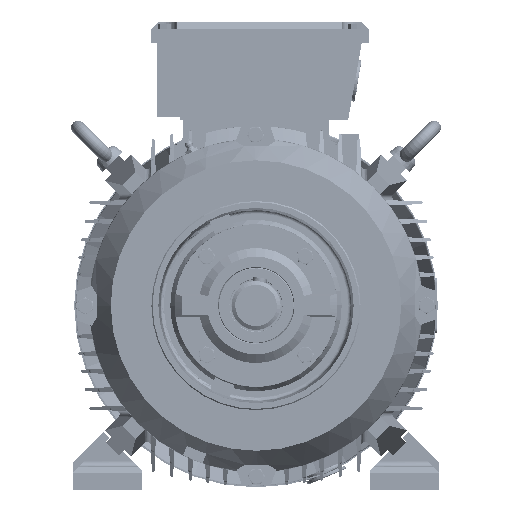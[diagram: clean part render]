
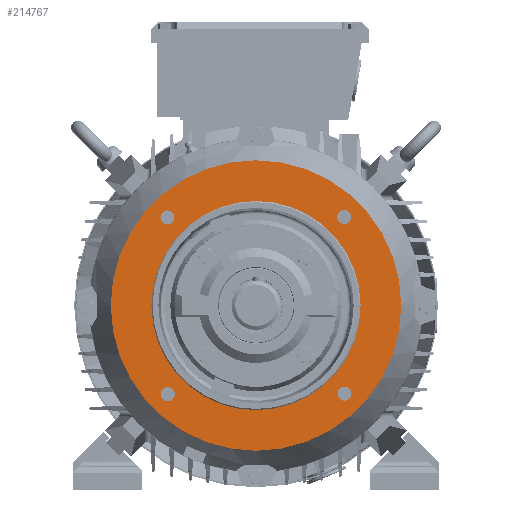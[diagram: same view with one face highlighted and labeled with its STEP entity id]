
A CAD part, left-side view. The second image highlights one B-rep face of the part: STEP entity #214767.
In plain terms, the highlighted planar face has unit normal (-1, 0, 0).
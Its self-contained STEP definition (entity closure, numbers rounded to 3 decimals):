
#2064 = VERTEX_POINT ( 'NONE', #93377 ) ;
#3423 = CARTESIAN_POINT ( 'NONE',  ( -152.343, 99.06, 73.481 ) ) ;
#4718 = ORIENTED_EDGE ( 'NONE', *, *, #263707, .F. ) ;
#6199 = AXIS2_PLACEMENT_3D ( 'NONE', #11031, #56713, #55386 ) ;
#8606 = CIRCLE ( 'NONE', #85944, 6. ) ;
#8969 = ORIENTED_EDGE ( 'NONE', *, *, #254069, .F. ) ;
#10463 = ORIENTED_EDGE ( 'NONE', *, *, #96361, .F. ) ;
#11031 = CARTESIAN_POINT ( 'NONE',  ( -152.343, 22.864, -2.35 ) ) ;
#11828 = CARTESIAN_POINT ( 'NONE',  ( -152.343, 22.864, -2.35 ) ) ;
#12714 = DIRECTION ( 'NONE',  ( -1., 0., 0. ) ) ;
#12979 = AXIS2_PLACEMENT_3D ( 'NONE', #3423, #143346, #242913 ) ;
#13230 = EDGE_LOOP ( 'NONE', ( #163538, #101541 ) ) ;
#14746 = ORIENTED_EDGE ( 'NONE', *, *, #173830, .F. ) ;
#15654 = FACE_BOUND ( 'NONE', #183196, .T. ) ;
#16995 = PLANE ( 'NONE',  #17402 ) ;
#17402 = AXIS2_PLACEMENT_3D ( 'NONE', #35822, #221357, #179676 ) ;
#20962 = CARTESIAN_POINT ( 'NONE',  ( -152.343, 98.694, -78.547 ) ) ;
#22650 = CARTESIAN_POINT ( 'NONE',  ( -152.343, -67.136, -2.133 ) ) ;
#23659 = CIRCLE ( 'NONE', #186772, 6. ) ;
#24302 = CIRCLE ( 'NONE', #170365, 125. ) ;
#28035 = ORIENTED_EDGE ( 'NONE', *, *, #65305, .F. ) ;
#30186 = DIRECTION ( 'NONE',  ( 0., 1., -0.002 ) ) ;
#35822 = CARTESIAN_POINT ( 'NONE',  ( -152.343, 23.08, 87.65 ) ) ;
#36317 = CARTESIAN_POINT ( 'NONE',  ( -152.343, 99.06, 73.481 ) ) ;
#37236 = DIRECTION ( 'NONE',  ( 0., 1., -0.002 ) ) ;
#38186 = DIRECTION ( 'NONE',  ( 0., -1., 0.002 ) ) ;
#40287 = CARTESIAN_POINT ( 'NONE',  ( -152.343, 92.694, -78.532 ) ) ;
#45716 = EDGE_LOOP ( 'NONE', ( #160906, #10463 ) ) ;
#46039 = CARTESIAN_POINT ( 'NONE',  ( -152.343, 104.694, -78.561 ) ) ;
#46536 = AXIS2_PLACEMENT_3D ( 'NONE', #234588, #128391, #30186 ) ;
#48470 = VERTEX_POINT ( 'NONE', #94749 ) ;
#54638 = AXIS2_PLACEMENT_3D ( 'NONE', #36317, #139854, #246044 ) ;
#55386 = DIRECTION ( 'NONE',  ( 0., -1., 0.002 ) ) ;
#56713 = DIRECTION ( 'NONE',  ( -1., 0., 0. ) ) ;
#63920 = DIRECTION ( 'NONE',  ( -1., 0., 0. ) ) ;
#65305 = EDGE_CURVE ( 'NONE', #113283, #74501, #146884, .T. ) ;
#67276 = EDGE_CURVE ( 'NONE', #248633, #193834, #218149, .T. ) ;
#74501 = VERTEX_POINT ( 'NONE', #46039 ) ;
#76205 = CARTESIAN_POINT ( 'NONE',  ( -152.343, -46.967, 73.833 ) ) ;
#83026 = CARTESIAN_POINT ( 'NONE',  ( -152.343, 22.864, -2.35 ) ) ;
#83356 = CIRCLE ( 'NONE', #6199, 125. ) ;
#85944 = AXIS2_PLACEMENT_3D ( 'NONE', #20962, #63920, #145987 ) ;
#87627 = AXIS2_PLACEMENT_3D ( 'NONE', #11828, #260564, #139545 ) ;
#89169 = DIRECTION ( 'NONE',  ( 0., 1., -0.002 ) ) ;
#93377 = CARTESIAN_POINT ( 'NONE',  ( -152.343, 93.06, 73.495 ) ) ;
#94749 = CARTESIAN_POINT ( 'NONE',  ( -152.343, 105.06, 73.466 ) ) ;
#96361 = EDGE_CURVE ( 'NONE', #2064, #48470, #111820, .T. ) ;
#98533 = AXIS2_PLACEMENT_3D ( 'NONE', #196944, #12714, #38186 ) ;
#99000 = FACE_BOUND ( 'NONE', #45716, .T. ) ;
#99101 = CARTESIAN_POINT ( 'NONE',  ( -152.343, -52.967, 73.847 ) ) ;
#100543 = CIRCLE ( 'NONE', #87627, 90. ) ;
#100703 = EDGE_CURVE ( 'NONE', #107108, #168683, #83356, .T. ) ;
#101541 = ORIENTED_EDGE ( 'NONE', *, *, #263722, .F. ) ;
#101854 = CIRCLE ( 'NONE', #54638, 6. ) ;
#103942 = ORIENTED_EDGE ( 'NONE', *, *, #189826, .F. ) ;
#105873 = DIRECTION ( 'NONE',  ( 0., -1., 0.002 ) ) ;
#107108 = VERTEX_POINT ( 'NONE', #198298 ) ;
#109409 = VERTEX_POINT ( 'NONE', #152042 ) ;
#110701 = CARTESIAN_POINT ( 'NONE',  ( -152.343, -52.967, 73.847 ) ) ;
#111820 = CIRCLE ( 'NONE', #12979, 6. ) ;
#113283 = VERTEX_POINT ( 'NONE', #40287 ) ;
#115626 = CIRCLE ( 'NONE', #98533, 90. ) ;
#119220 = ORIENTED_EDGE ( 'NONE', *, *, #177020, .T. ) ;
#120605 = DIRECTION ( 'NONE',  ( 0., 1., -0.002 ) ) ;
#123420 = VERTEX_POINT ( 'NONE', #22650 ) ;
#125565 = EDGE_LOOP ( 'NONE', ( #103942, #28035 ) ) ;
#126078 = DIRECTION ( 'NONE',  ( 0., 1., -0.002 ) ) ;
#127358 = DIRECTION ( 'NONE',  ( -1., 0., 0. ) ) ;
#128391 = DIRECTION ( 'NONE',  ( -1., 0., 0. ) ) ;
#139545 = DIRECTION ( 'NONE',  ( 0., -1., 0.002 ) ) ;
#139854 = DIRECTION ( 'NONE',  ( -1., 0., 0. ) ) ;
#143346 = DIRECTION ( 'NONE',  ( -1., 0., 0. ) ) ;
#143359 = EDGE_LOOP ( 'NONE', ( #179976, #4718 ) ) ;
#144927 = CARTESIAN_POINT ( 'NONE',  ( -152.343, 98.694, -78.547 ) ) ;
#145987 = DIRECTION ( 'NONE',  ( 0., 1., -0.002 ) ) ;
#146884 = CIRCLE ( 'NONE', #258397, 6. ) ;
#148194 = AXIS2_PLACEMENT_3D ( 'NONE', #221458, #222788, #120605 ) ;
#151069 = DIRECTION ( 'NONE',  ( -1., 0., 0. ) ) ;
#152042 = CARTESIAN_POINT ( 'NONE',  ( -152.343, -58.967, 73.862 ) ) ;
#156865 = FACE_OUTER_BOUND ( 'NONE', #177592, .T. ) ;
#159616 = DIRECTION ( 'NONE',  ( -1., 0., 0. ) ) ;
#160906 = ORIENTED_EDGE ( 'NONE', *, *, #250225, .F. ) ;
#163538 = ORIENTED_EDGE ( 'NONE', *, *, #208583, .F. ) ;
#168683 = VERTEX_POINT ( 'NONE', #209137 ) ;
#169495 = CIRCLE ( 'NONE', #148194, 6. ) ;
#170365 = AXIS2_PLACEMENT_3D ( 'NONE', #83026, #127358, #105873 ) ;
#173830 = EDGE_CURVE ( 'NONE', #123420, #193975, #100543, .T. ) ;
#177020 = EDGE_CURVE ( 'NONE', #168683, #107108, #24302, .T. ) ;
#177033 = FACE_BOUND ( 'NONE', #13230, .T. ) ;
#177592 = EDGE_LOOP ( 'NONE', ( #119220, #188500 ) ) ;
#179676 = DIRECTION ( 'NONE',  ( 0., 0.002, 1. ) ) ;
#179976 = ORIENTED_EDGE ( 'NONE', *, *, #67276, .F. ) ;
#181007 = FACE_BOUND ( 'NONE', #125565, .T. ) ;
#181029 = CARTESIAN_POINT ( 'NONE',  ( -152.343, -59.333, -78.166 ) ) ;
#183196 = EDGE_LOOP ( 'NONE', ( #14746, #8969 ) ) ;
#183668 = CARTESIAN_POINT ( 'NONE',  ( -152.343, 112.863, -2.567 ) ) ;
#184777 = CIRCLE ( 'NONE', #249079, 6. ) ;
#186772 = AXIS2_PLACEMENT_3D ( 'NONE', #99101, #159616, #37236 ) ;
#188500 = ORIENTED_EDGE ( 'NONE', *, *, #100703, .T. ) ;
#189826 = EDGE_CURVE ( 'NONE', #74501, #113283, #8606, .T. ) ;
#193834 = VERTEX_POINT ( 'NONE', #181029 ) ;
#193975 = VERTEX_POINT ( 'NONE', #183668 ) ;
#196944 = CARTESIAN_POINT ( 'NONE',  ( -152.343, 22.864, -2.35 ) ) ;
#198298 = CARTESIAN_POINT ( 'NONE',  ( -152.343, 147.863, -2.651 ) ) ;
#201483 = CARTESIAN_POINT ( 'NONE',  ( -152.343, -47.333, -78.195 ) ) ;
#208583 = EDGE_CURVE ( 'NONE', #261427, #109409, #184777, .T. ) ;
#209137 = CARTESIAN_POINT ( 'NONE',  ( -152.343, -102.136, -2.049 ) ) ;
#214767 = ADVANCED_FACE ( 'NONE', ( #156865, #222685, #181007, #99000, #177033, #15654 ), #16995, .F. ) ;
#218149 = CIRCLE ( 'NONE', #46536, 6. ) ;
#221357 = DIRECTION ( 'NONE',  ( 1., 0., 0. ) ) ;
#221458 = CARTESIAN_POINT ( 'NONE',  ( -152.343, -53.333, -78.18 ) ) ;
#222685 = FACE_BOUND ( 'NONE', #143359, .T. ) ;
#222788 = DIRECTION ( 'NONE',  ( -1., 0., 0. ) ) ;
#230921 = DIRECTION ( 'NONE',  ( -1., 0., 0. ) ) ;
#234588 = CARTESIAN_POINT ( 'NONE',  ( -152.343, -53.333, -78.18 ) ) ;
#242913 = DIRECTION ( 'NONE',  ( 0., 1., -0.002 ) ) ;
#246044 = DIRECTION ( 'NONE',  ( 0., 1., -0.002 ) ) ;
#248633 = VERTEX_POINT ( 'NONE', #201483 ) ;
#249079 = AXIS2_PLACEMENT_3D ( 'NONE', #110701, #151069, #89169 ) ;
#250225 = EDGE_CURVE ( 'NONE', #48470, #2064, #101854, .T. ) ;
#254069 = EDGE_CURVE ( 'NONE', #193975, #123420, #115626, .T. ) ;
#258397 = AXIS2_PLACEMENT_3D ( 'NONE', #144927, #230921, #126078 ) ;
#260564 = DIRECTION ( 'NONE',  ( -1., 0., 0. ) ) ;
#261427 = VERTEX_POINT ( 'NONE', #76205 ) ;
#263707 = EDGE_CURVE ( 'NONE', #193834, #248633, #169495, .T. ) ;
#263722 = EDGE_CURVE ( 'NONE', #109409, #261427, #23659, .T. ) ;
